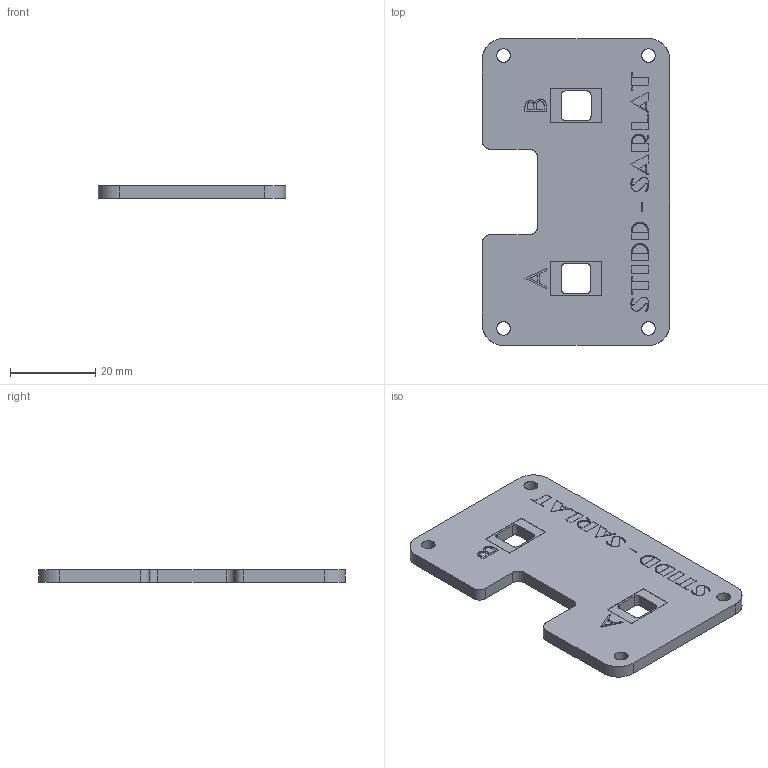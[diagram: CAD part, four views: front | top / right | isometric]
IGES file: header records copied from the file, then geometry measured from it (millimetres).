
Start section: SolidWorks IGES file using analytic representation for surfaces
Global section: file name: Z:\STIDD-Tronc commun\DEF_INNOV\plaque 1 - telecommande.IGS; native system: SolidWorks 2022; preprocessor: SolidWorks 2022; author: laurent.fayat; date: 250403.160506; units: millimetre
Bounding box: 44 x 72 x 3 mm (x, y, z)
Surface area: 6562.6 mm2 (no closed solid volume)
Topology: 0 solids, 0 shells, 294 faces, 3482 edges, 3482 vertices
Faces by surface type: bspline 270, revolution 24
